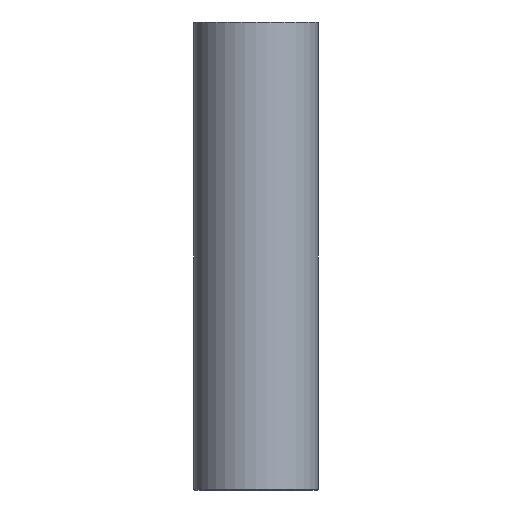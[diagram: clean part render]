
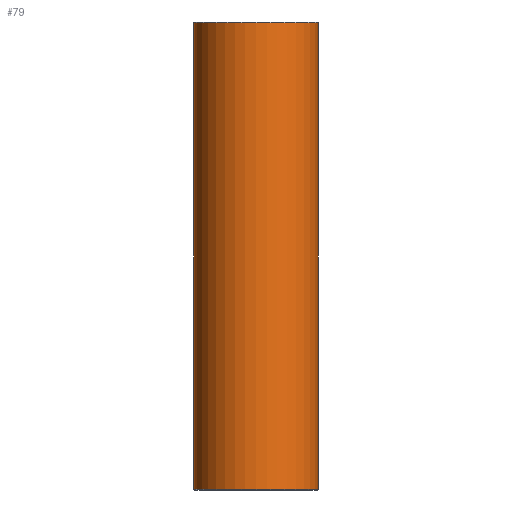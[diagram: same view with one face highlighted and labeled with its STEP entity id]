
A CAD part, front view. The second image highlights one B-rep face of the part: STEP entity #79.
In plain terms, the highlighted cylindrical face has radius 20 mm (diameter 40 mm), a full revolution.
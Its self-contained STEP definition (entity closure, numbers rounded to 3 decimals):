
#79=ADVANCED_FACE('',(#96,#97),#98,.T.);
#96=FACE_OUTER_BOUND('',#120,.T.);
#97=FACE_OUTER_BOUND('',#121,.T.);
#98=CYLINDRICAL_SURFACE('',#122,20.0);
#120=EDGE_LOOP('',(#152));
#121=EDGE_LOOP('',(#153));
#122=AXIS2_PLACEMENT_3D('',#154,#155,#156);
#152=ORIENTED_EDGE('',*,*,#178,.T.);
#153=ORIENTED_EDGE('',*,*,#177,.T.);
#154=CARTESIAN_POINT('',(0.,0.0,150.0));
#155=DIRECTION('',(0.0,0.0,-1.0));
#156=DIRECTION('',(-1.0,0.0,0.0));
#177=EDGE_CURVE('',#190,#190,#191,.T.);
#178=EDGE_CURVE('',#192,#192,#193,.F.);
#190=VERTEX_POINT('',#206);
#191=CIRCLE('',#207,20.0);
#192=VERTEX_POINT('',#208);
#193=CIRCLE('',#209,20.0);
#206=CARTESIAN_POINT('',(20.0,0.0,0.2));
#207=AXIS2_PLACEMENT_3D('',#227,#228,#229);
#208=CARTESIAN_POINT('',(20.0,0.,149.8));
#209=AXIS2_PLACEMENT_3D('',#230,#231,#232);
#227=CARTESIAN_POINT('',(0.,0.0,0.2));
#228=DIRECTION('',(0.0,0.0,1.0));
#229=DIRECTION('',(1.0,0.0,0.0));
#230=CARTESIAN_POINT('',(0.,0.0,149.8));
#231=DIRECTION('',(0.0,0.0,1.0));
#232=DIRECTION('',(1.0,0.0,0.0));
